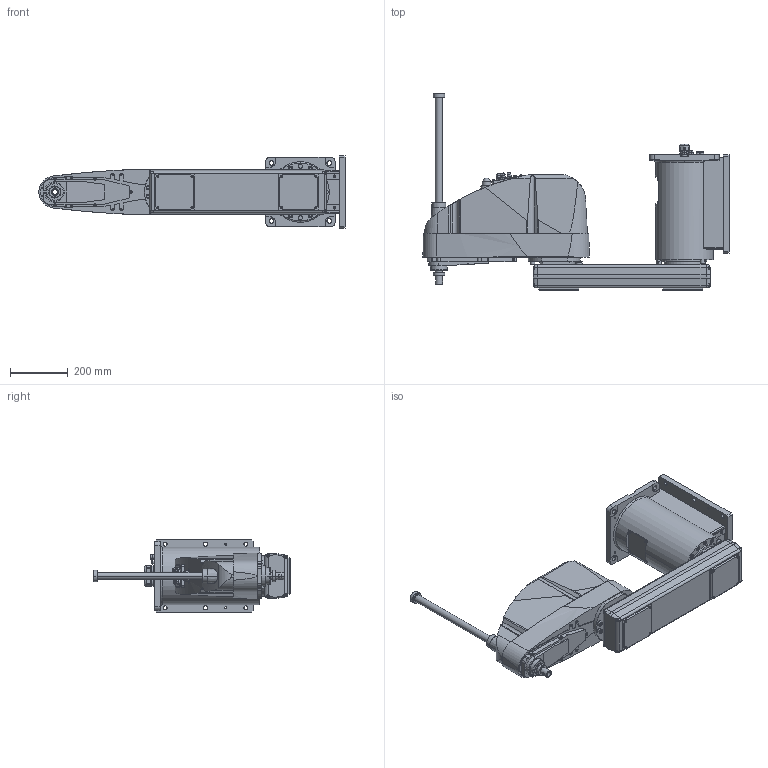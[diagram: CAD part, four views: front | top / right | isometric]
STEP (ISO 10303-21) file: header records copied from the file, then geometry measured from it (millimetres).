
FILE_DESCRIPTION( ( '' ), '1' );
FILE_NAME( '//expscmdclustefs.cadenas.external/client_exchange/iodir/jobs/output/wkb51510256_no0/STEP/G10_854SW_2_03.stp', '2012-11-22T14:49:33', ( '' ), ( '' ), ' ', ' ', ' ' );
FILE_SCHEMA( ( 'CONFIG_CONTROL_DESIGN' ) );
Length unit declared in the file: millimetre
Products named in the file (4): 1; 2; 3; 4
Bounding box: 1060.5 x 681.5 x 250 mm (x, y, z)
Volume: 42182823.6 mm3; surface area: 1506659.8 mm2
Topology: 4 solids, 4 shells, 1841 faces, 4459 edges, 2897 vertices
Faces by surface type: plane 1006, cylinder 621, cone 190, torus 23, sphere 1
Entity records: 55156 total; most frequent: CARTESIAN_POINT 10584, DIRECTION 9552, ORIENTED_EDGE 8894, EDGE_CURVE 4447, AXIS2_PLACEMENT_3D 3367, VERTEX_POINT 2897, LINE 2818, VECTOR 2818
